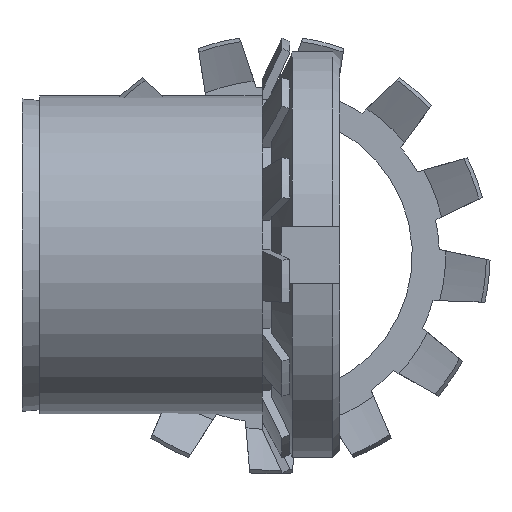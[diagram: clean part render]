
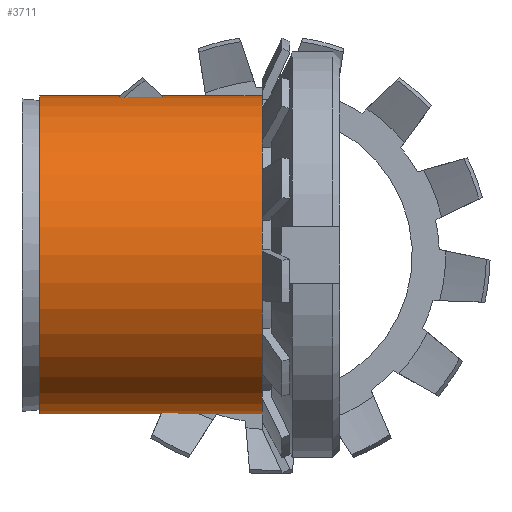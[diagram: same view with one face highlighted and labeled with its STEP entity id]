
A CAD part, left-side view. The second image highlights one B-rep face of the part: STEP entity #3711.
In plain terms, the highlighted cylindrical face has radius 22.5 mm (diameter 45 mm), a full revolution.
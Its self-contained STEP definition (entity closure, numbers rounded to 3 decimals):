
#3711 = ADVANCED_FACE( '', ( #4999, #5000 ), #5001, .T. );
#4999 = FACE_OUTER_BOUND( '', #5165, .T. );
#5000 = FACE_OUTER_BOUND( '', #5166, .T. );
#5001 = CYLINDRICAL_SURFACE( '', #5167, 22.5 );
#5165 = EDGE_LOOP( '', ( #5407 ) );
#5166 = EDGE_LOOP( '', ( #5408 ) );
#5167 = AXIS2_PLACEMENT_3D( '', #5409, #5410, #5411 );
#5407 = ORIENTED_EDGE( '', *, *, #5746, .F. );
#5408 = ORIENTED_EDGE( '', *, *, #5729, .T. );
#5409 = CARTESIAN_POINT( '', ( 0., -60., 0. ) );
#5410 = DIRECTION( '', ( 0., 1., 0. ) );
#5411 = DIRECTION( '', ( 0., 0., -1. ) );
#5729 = EDGE_CURVE( '', #5855, #5855, #5856, .T. );
#5746 = EDGE_CURVE( '', #5885, #5885, #5886, .T. );
#5855 = VERTEX_POINT( '', #6071 );
#5856 = CIRCLE( '', #6072, 22.5 );
#5885 = VERTEX_POINT( '', #6149 );
#5886 = CIRCLE( '', #6150, 22.5 );
#6071 = CARTESIAN_POINT( '', ( 0., 32.75, -22.5 ) );
#6072 = AXIS2_PLACEMENT_3D( '', #6314, #6315, #6316 );
#6149 = CARTESIAN_POINT( '', ( 0., 0., -22.5 ) );
#6150 = AXIS2_PLACEMENT_3D( '', #6331, #6332, #6333 );
#6314 = CARTESIAN_POINT( '', ( 0., 32.75, 0. ) );
#6315 = DIRECTION( '', ( 0., -1., 0. ) );
#6316 = DIRECTION( '', ( 0., 0., -1. ) );
#6331 = CARTESIAN_POINT( '', ( 0., 0., 0. ) );
#6332 = DIRECTION( '', ( 0., -1., 0. ) );
#6333 = DIRECTION( '', ( 0., 0., -1. ) );
